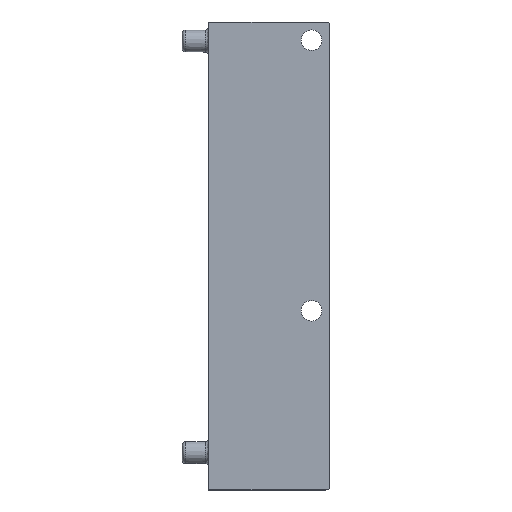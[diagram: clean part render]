
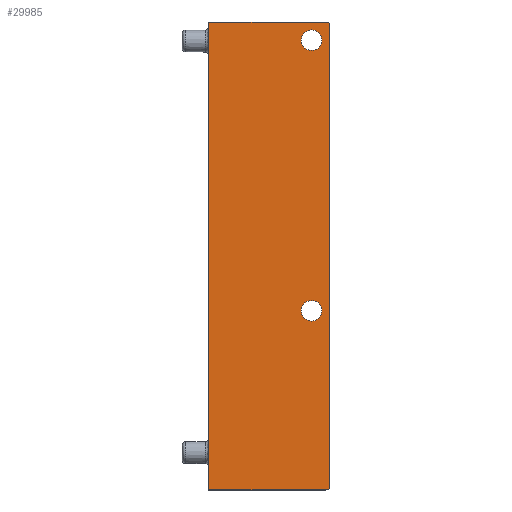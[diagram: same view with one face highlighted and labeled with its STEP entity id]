
A CAD part, front view. The second image highlights one B-rep face of the part: STEP entity #29985.
In plain terms, the highlighted planar face has unit normal (0, -1, 0).
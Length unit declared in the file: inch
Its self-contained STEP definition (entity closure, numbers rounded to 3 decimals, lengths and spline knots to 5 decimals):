
#2463 = DIRECTION ( 'NONE',  ( 0., 0., 1. ) ) ;
#3481 = DIRECTION ( 'NONE',  ( -1., 0., 0. ) ) ;
#3511 = CARTESIAN_POINT ( 'NONE',  ( 0.73819, 0., 2.73622 ) ) ;
#3999 = CARTESIAN_POINT ( 'NONE',  ( -0.69882, 0., -2.77559 ) ) ;
#4016 = CARTESIAN_POINT ( 'NONE',  ( 0.30512, 0., 2.77559 ) ) ;
#5746 = EDGE_LOOP ( 'NONE', ( #49572, #21732 ) ) ;
#6501 = CARTESIAN_POINT ( 'NONE',  ( 0.52165, 0., 2.68081 ) ) ;
#6617 = CIRCLE ( 'NONE', #45255, 0.12176 ) ;
#7642 = DIRECTION ( 'NONE',  ( 0., 1., 0. ) ) ;
#8580 = ORIENTED_EDGE ( 'NONE', *, *, #22847, .F. ) ;
#9029 = DIRECTION ( 'NONE',  ( 0., 0., 1. ) ) ;
#9098 = VECTOR ( 'NONE', #57760, 39.37008 ) ;
#10642 = LINE ( 'NONE', #61685, #9098 ) ;
#12083 = DIRECTION ( 'NONE',  ( 0., -1., 0. ) ) ;
#12281 = EDGE_CURVE ( 'NONE', #59106, #41358, #44040, .T. ) ;
#12646 = EDGE_CURVE ( 'NONE', #16432, #14110, #10642, .T. ) ;
#13571 = PLANE ( 'NONE',  #39610 ) ;
#14110 = VERTEX_POINT ( 'NONE', #18895 ) ;
#14243 = EDGE_CURVE ( 'NONE', #49159, #54081, #16692, .T. ) ;
#14667 = ORIENTED_EDGE ( 'NONE', *, *, #50838, .F. ) ;
#15757 = DIRECTION ( 'NONE',  ( 0., 0., 1. ) ) ;
#15902 = VECTOR ( 'NONE', #32105, 39.37008 ) ;
#16357 = DIRECTION ( 'NONE',  ( 0., -1., 0. ) ) ;
#16432 = VERTEX_POINT ( 'NONE', #31796 ) ;
#16692 = LINE ( 'NONE', #47177, #15902 ) ;
#16929 = DIRECTION ( 'NONE',  ( 0., 1., 0. ) ) ;
#17424 = CARTESIAN_POINT ( 'NONE',  ( -0.69882, 0., 2.77559 ) ) ;
#17433 = ORIENTED_EDGE ( 'NONE', *, *, #12646, .F. ) ;
#18218 = VERTEX_POINT ( 'NONE', #48575 ) ;
#18895 = CARTESIAN_POINT ( 'NONE',  ( 0.69882, 0., 2.77559 ) ) ;
#20784 = EDGE_LOOP ( 'NONE', ( #62741, #46442, #14667, #17433, #8580, #33082 ) ) ;
#21306 = CARTESIAN_POINT ( 'NONE',  ( 0.52165, 0., 2.55906 ) ) ;
#21732 = ORIENTED_EDGE ( 'NONE', *, *, #54752, .F. ) ;
#22847 = EDGE_CURVE ( 'NONE', #41358, #16432, #63201, .T. ) ;
#22987 = CARTESIAN_POINT ( 'NONE',  ( 0.69882, 0., 2.73622 ) ) ;
#23335 = AXIS2_PLACEMENT_3D ( 'NONE', #56199, #16357, #15757 ) ;
#24174 = AXIS2_PLACEMENT_3D ( 'NONE', #52190, #52618, #47013 ) ;
#25348 = CIRCLE ( 'NONE', #23335, 0.12176 ) ;
#25596 = CIRCLE ( 'NONE', #52412, 0.03937 ) ;
#25944 = CARTESIAN_POINT ( 'NONE',  ( 0.52165, 0., 2.55906 ) ) ;
#26301 = DIRECTION ( 'NONE',  ( 0., -1., 0. ) ) ;
#27755 = DIRECTION ( 'NONE',  ( 0., 0., -1. ) ) ;
#29233 = CARTESIAN_POINT ( 'NONE',  ( 0.52165, 0., -0.52785 ) ) ;
#29985 = ADVANCED_FACE ( 'NONE', ( #59075, #53683, #34297 ), #13571, .F. ) ;
#30429 = DIRECTION ( 'NONE',  ( 0., 0., 1. ) ) ;
#30863 = VECTOR ( 'NONE', #3481, 39.37008 ) ;
#31129 = VERTEX_POINT ( 'NONE', #6501 ) ;
#31796 = CARTESIAN_POINT ( 'NONE',  ( -0.69882, 0., 2.77559 ) ) ;
#32105 = DIRECTION ( 'NONE',  ( 0., 0., 1. ) ) ;
#33082 = ORIENTED_EDGE ( 'NONE', *, *, #12281, .F. ) ;
#34297 = FACE_BOUND ( 'NONE', #50632, .T. ) ;
#34321 = DIRECTION ( 'NONE',  ( 0., 1., 0. ) ) ;
#38857 = VERTEX_POINT ( 'NONE', #29233 ) ;
#39610 = AXIS2_PLACEMENT_3D ( 'NONE', #4016, #34321, #9029 ) ;
#40313 = EDGE_CURVE ( 'NONE', #31129, #59526, #56000, .T. ) ;
#41358 = VERTEX_POINT ( 'NONE', #3999 ) ;
#42393 = CIRCLE ( 'NONE', #54711, 0.03937 ) ;
#42460 = CARTESIAN_POINT ( 'NONE',  ( 0.30512, 0., -2.77559 ) ) ;
#43242 = CARTESIAN_POINT ( 'NONE',  ( 0.52165, 0., 2.4373 ) ) ;
#44040 = LINE ( 'NONE', #42460, #30863 ) ;
#45255 = AXIS2_PLACEMENT_3D ( 'NONE', #25944, #12083, #60782 ) ;
#45671 = CARTESIAN_POINT ( 'NONE',  ( 0.69882, 0., -2.77559 ) ) ;
#46442 = ORIENTED_EDGE ( 'NONE', *, *, #14243, .T. ) ;
#47013 = DIRECTION ( 'NONE',  ( 0., 0., 1. ) ) ;
#47177 = CARTESIAN_POINT ( 'NONE',  ( 0.73819, 0., 2.77559 ) ) ;
#47395 = CIRCLE ( 'NONE', #24174, 0.12176 ) ;
#47479 = AXIS2_PLACEMENT_3D ( 'NONE', #21306, #26301, #30429 ) ;
#48575 = CARTESIAN_POINT ( 'NONE',  ( 0.52165, 0., -0.77136 ) ) ;
#49159 = VERTEX_POINT ( 'NONE', #59784 ) ;
#49572 = ORIENTED_EDGE ( 'NONE', *, *, #40313, .F. ) ;
#50071 = EDGE_CURVE ( 'NONE', #18218, #38857, #47395, .T. ) ;
#50632 = EDGE_LOOP ( 'NONE', ( #52812, #51454 ) ) ;
#50838 = EDGE_CURVE ( 'NONE', #14110, #54081, #25596, .T. ) ;
#51454 = ORIENTED_EDGE ( 'NONE', *, *, #50071, .F. ) ;
#52190 = CARTESIAN_POINT ( 'NONE',  ( 0.52165, 0., -0.64961 ) ) ;
#52412 = AXIS2_PLACEMENT_3D ( 'NONE', #22987, #16929, #57616 ) ;
#52618 = DIRECTION ( 'NONE',  ( 0., -1., 0. ) ) ;
#52812 = ORIENTED_EDGE ( 'NONE', *, *, #56830, .F. ) ;
#53683 = FACE_BOUND ( 'NONE', #5746, .T. ) ;
#53957 = EDGE_CURVE ( 'NONE', #49159, #59106, #42393, .T. ) ;
#54081 = VERTEX_POINT ( 'NONE', #3511 ) ;
#54711 = AXIS2_PLACEMENT_3D ( 'NONE', #56988, #7642, #27755 ) ;
#54752 = EDGE_CURVE ( 'NONE', #59526, #31129, #6617, .T. ) ;
#56000 = CIRCLE ( 'NONE', #47479, 0.12176 ) ;
#56199 = CARTESIAN_POINT ( 'NONE',  ( 0.52165, 0., -0.64961 ) ) ;
#56830 = EDGE_CURVE ( 'NONE', #38857, #18218, #25348, .T. ) ;
#56988 = CARTESIAN_POINT ( 'NONE',  ( 0.69882, 0., -2.73622 ) ) ;
#57616 = DIRECTION ( 'NONE',  ( 0., 0., 1. ) ) ;
#57760 = DIRECTION ( 'NONE',  ( 1., 0., 0. ) ) ;
#59075 = FACE_OUTER_BOUND ( 'NONE', #20784, .T. ) ;
#59106 = VERTEX_POINT ( 'NONE', #45671 ) ;
#59526 = VERTEX_POINT ( 'NONE', #43242 ) ;
#59784 = CARTESIAN_POINT ( 'NONE',  ( 0.73819, 0., -2.73622 ) ) ;
#60782 = DIRECTION ( 'NONE',  ( 0., 0., 1. ) ) ;
#61659 = VECTOR ( 'NONE', #2463, 39.37008 ) ;
#61685 = CARTESIAN_POINT ( 'NONE',  ( 0.30512, 0., 2.77559 ) ) ;
#62741 = ORIENTED_EDGE ( 'NONE', *, *, #53957, .F. ) ;
#63201 = LINE ( 'NONE', #17424, #61659 ) ;
